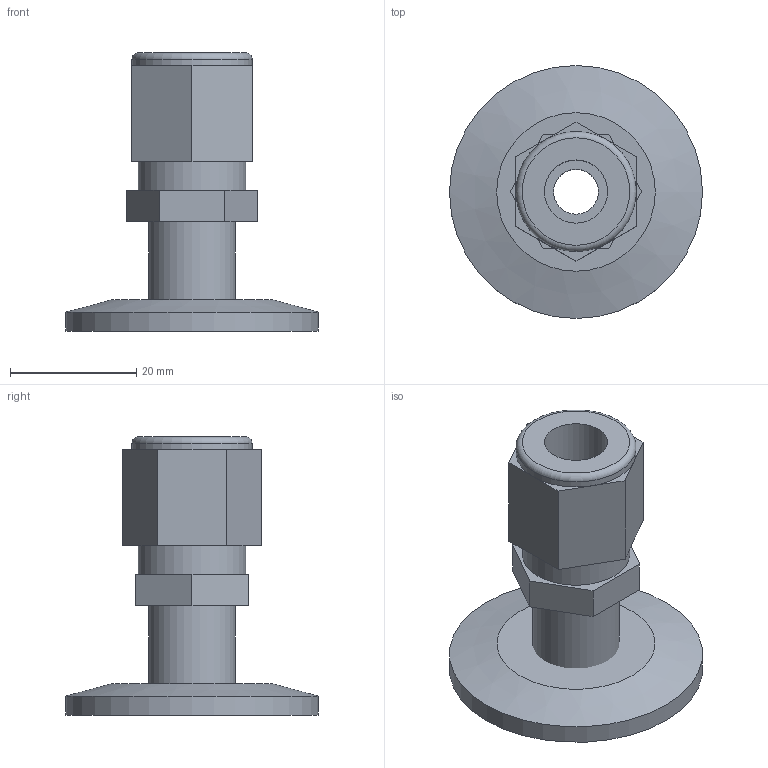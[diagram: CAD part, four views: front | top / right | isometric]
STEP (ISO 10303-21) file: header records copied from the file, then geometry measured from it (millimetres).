
FILE_DESCRIPTION( ( 'Unknown' ), '1' );
FILE_NAME( 'X:/Daten ( aktueller Bestand )/Projekte und Zeichnungen/Solid Edge/STP-Dateien/Adapter KF/1824-10.stp', 'Unknown', ( 'Unknown' ), ( 'Unknown' ), 'PSStep 14.0', 'Unknown', ' ' );
FILE_SCHEMA( ( 'AUTOMOTIVE_DESIGN { 1 0 10303 214 1 1 1 1 }' ) );
Length unit declared in the file: millimetre
Products named in the file (3): Assem1; 10x1-4; 1824- 1-2
Assembly tree (2 placements, depth 2):
  Assem1
    10x1-4
    1824- 1-2
Bounding box: 40 x 40 x 44 mm (x, y, z)
Volume: 11775.5 mm3; surface area: 7198.9 mm2
Topology: 2 solids, 2 shells, 39 faces, 78 edges, 49 vertices
Faces by surface type: plane 28, cylinder 9, torus 1, cone 1
Full cylindrical faces by diameter (mm): 7.1 x1, 10 x1, 12.8 x1, 13.7 x1, 17 x1, 19 x1, 19.7 x1, 26.2 x1, 40 x1
Entity records: 1324 total; most frequent: DIRECTION 176, CARTESIAN_POINT 158, ORIENTED_EDGE 134, AXIS2_PLACEMENT_3D 67, EDGE_CURVE 67, EDGE_LOOP 60, FACE_OUTER_BOUND 49, VERTEX_POINT 49
